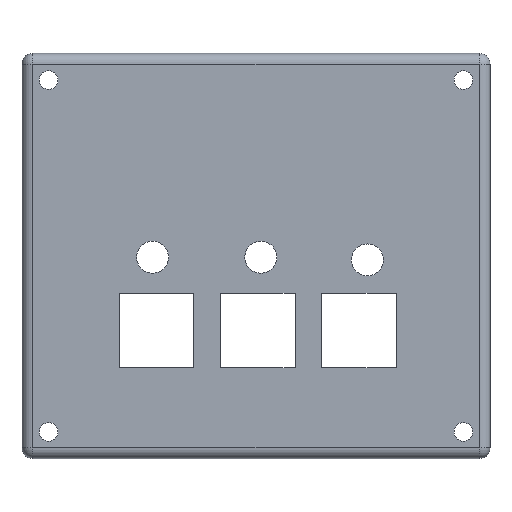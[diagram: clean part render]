
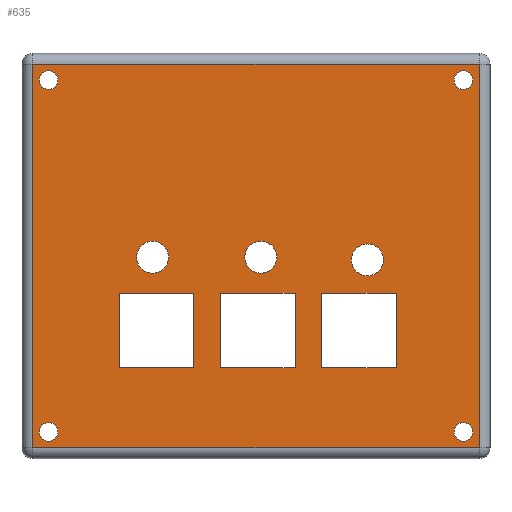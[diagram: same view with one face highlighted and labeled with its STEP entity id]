
A CAD part, front view. The second image highlights one B-rep face of the part: STEP entity #635.
In plain terms, the highlighted planar face has unit normal (0, -1, 0).
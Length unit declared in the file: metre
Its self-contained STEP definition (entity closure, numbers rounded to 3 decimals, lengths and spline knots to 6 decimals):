
#31=CIRCLE('',#686,0.003);
#32=CIRCLE('',#687,0.003);
#33=CIRCLE('',#688,0.003);
#34=CIRCLE('',#689,0.00175);
#35=CIRCLE('',#690,0.00175);
#36=CIRCLE('',#691,0.00175);
#37=CIRCLE('',#692,0.00175);
#61=ORIENTED_EDGE('',*,*,#233,.T.);
#62=ORIENTED_EDGE('',*,*,#234,.T.);
#63=ORIENTED_EDGE('',*,*,#235,.T.);
#64=ORIENTED_EDGE('',*,*,#236,.T.);
#65=ORIENTED_EDGE('',*,*,#237,.T.);
#66=ORIENTED_EDGE('',*,*,#238,.T.);
#67=ORIENTED_EDGE('',*,*,#239,.T.);
#68=ORIENTED_EDGE('',*,*,#240,.F.);
#69=ORIENTED_EDGE('',*,*,#241,.F.);
#70=ORIENTED_EDGE('',*,*,#242,.T.);
#71=ORIENTED_EDGE('',*,*,#243,.T.);
#72=ORIENTED_EDGE('',*,*,#244,.F.);
#73=ORIENTED_EDGE('',*,*,#245,.F.);
#74=ORIENTED_EDGE('',*,*,#246,.T.);
#75=ORIENTED_EDGE('',*,*,#247,.T.);
#76=ORIENTED_EDGE('',*,*,#248,.F.);
#77=ORIENTED_EDGE('',*,*,#249,.F.);
#78=ORIENTED_EDGE('',*,*,#250,.T.);
#79=ORIENTED_EDGE('',*,*,#251,.T.);
#80=ORIENTED_EDGE('',*,*,#252,.T.);
#81=ORIENTED_EDGE('',*,*,#253,.F.);
#82=ORIENTED_EDGE('',*,*,#254,.F.);
#83=ORIENTED_EDGE('',*,*,#255,.T.);
#233=EDGE_CURVE('',#319,#320,#377,.T.);
#234=EDGE_CURVE('',#320,#321,#378,.T.);
#235=EDGE_CURVE('',#321,#322,#379,.F.);
#236=EDGE_CURVE('',#322,#319,#380,.F.);
#237=EDGE_CURVE('',#323,#323,#31,.F.);
#238=EDGE_CURVE('',#324,#324,#32,.F.);
#239=EDGE_CURVE('',#325,#325,#33,.F.);
#240=EDGE_CURVE('',#326,#327,#381,.T.);
#241=EDGE_CURVE('',#328,#326,#382,.T.);
#242=EDGE_CURVE('',#328,#329,#383,.T.);
#243=EDGE_CURVE('',#329,#327,#384,.T.);
#244=EDGE_CURVE('',#330,#331,#385,.T.);
#245=EDGE_CURVE('',#332,#330,#386,.T.);
#246=EDGE_CURVE('',#332,#333,#387,.T.);
#247=EDGE_CURVE('',#333,#331,#388,.T.);
#248=EDGE_CURVE('',#334,#335,#389,.T.);
#249=EDGE_CURVE('',#336,#334,#390,.T.);
#250=EDGE_CURVE('',#336,#337,#391,.T.);
#251=EDGE_CURVE('',#337,#335,#392,.T.);
#252=EDGE_CURVE('',#338,#338,#34,.F.);
#253=EDGE_CURVE('',#339,#339,#35,.T.);
#254=EDGE_CURVE('',#340,#340,#36,.T.);
#255=EDGE_CURVE('',#341,#341,#37,.F.);
#319=VERTEX_POINT('',#947);
#320=VERTEX_POINT('',#948);
#321=VERTEX_POINT('',#950);
#322=VERTEX_POINT('',#952);
#323=VERTEX_POINT('',#955);
#324=VERTEX_POINT('',#957);
#325=VERTEX_POINT('',#959);
#326=VERTEX_POINT('',#961);
#327=VERTEX_POINT('',#962);
#328=VERTEX_POINT('',#964);
#329=VERTEX_POINT('',#966);
#330=VERTEX_POINT('',#969);
#331=VERTEX_POINT('',#970);
#332=VERTEX_POINT('',#972);
#333=VERTEX_POINT('',#974);
#334=VERTEX_POINT('',#977);
#335=VERTEX_POINT('',#978);
#336=VERTEX_POINT('',#980);
#337=VERTEX_POINT('',#982);
#338=VERTEX_POINT('',#985);
#339=VERTEX_POINT('',#987);
#340=VERTEX_POINT('',#989);
#341=VERTEX_POINT('',#991);
#377=LINE('',#946,#433);
#378=LINE('',#949,#434);
#379=LINE('',#951,#435);
#380=LINE('',#953,#436);
#381=LINE('',#960,#437);
#382=LINE('',#963,#438);
#383=LINE('',#965,#439);
#384=LINE('',#967,#440);
#385=LINE('',#968,#441);
#386=LINE('',#971,#442);
#387=LINE('',#973,#443);
#388=LINE('',#975,#444);
#389=LINE('',#976,#445);
#390=LINE('',#979,#446);
#391=LINE('',#981,#447);
#392=LINE('',#983,#448);
#433=VECTOR('',#756,1.);
#434=VECTOR('',#757,1.);
#435=VECTOR('',#758,1.);
#436=VECTOR('',#759,1.);
#437=VECTOR('',#766,1.);
#438=VECTOR('',#767,1.);
#439=VECTOR('',#768,1.);
#440=VECTOR('',#769,1.);
#441=VECTOR('',#770,1.);
#442=VECTOR('',#771,1.);
#443=VECTOR('',#772,1.);
#444=VECTOR('',#773,1.);
#445=VECTOR('',#774,1.);
#446=VECTOR('',#775,1.);
#447=VECTOR('',#776,1.);
#448=VECTOR('',#777,1.);
#489=EDGE_LOOP('',(#61,#62,#63,#64));
#490=EDGE_LOOP('',(#65));
#491=EDGE_LOOP('',(#66));
#492=EDGE_LOOP('',(#67));
#493=EDGE_LOOP('',(#68,#69,#70,#71));
#494=EDGE_LOOP('',(#72,#73,#74,#75));
#495=EDGE_LOOP('',(#76,#77,#78,#79));
#496=EDGE_LOOP('',(#80));
#497=EDGE_LOOP('',(#81));
#498=EDGE_LOOP('',(#82));
#499=EDGE_LOOP('',(#83));
#553=FACE_BOUND('',#489,.T.);
#554=FACE_BOUND('',#490,.T.);
#555=FACE_BOUND('',#491,.T.);
#556=FACE_BOUND('',#492,.T.);
#557=FACE_BOUND('',#493,.T.);
#558=FACE_BOUND('',#494,.T.);
#559=FACE_BOUND('',#495,.T.);
#560=FACE_BOUND('',#496,.T.);
#561=FACE_BOUND('',#497,.T.);
#562=FACE_BOUND('',#498,.T.);
#563=FACE_BOUND('',#499,.T.);
#617=PLANE('',#685);
#635=ADVANCED_FACE('',(#553,#554,#555,#556,#557,#558,#559,#560,#561,#562,#563),#617,.T.);
#685=AXIS2_PLACEMENT_3D('',#945,#754,#755);
#686=AXIS2_PLACEMENT_3D('',#954,#760,#761);
#687=AXIS2_PLACEMENT_3D('',#956,#762,#763);
#688=AXIS2_PLACEMENT_3D('',#958,#764,#765);
#689=AXIS2_PLACEMENT_3D('',#984,#778,#779);
#690=AXIS2_PLACEMENT_3D('',#986,#780,#781);
#691=AXIS2_PLACEMENT_3D('',#988,#782,#783);
#692=AXIS2_PLACEMENT_3D('',#990,#784,#785);
#754=DIRECTION('',(0.,-1.,0.));
#755=DIRECTION('',(1.,0.,0.));
#756=DIRECTION('',(0.,0.,1.));
#757=DIRECTION('',(-1.,0.,0.));
#758=DIRECTION('',(0.,0.,1.));
#759=DIRECTION('',(-1.,0.,0.));
#760=DIRECTION('',(0.,-1.,0.));
#761=DIRECTION('',(0.,0.,-1.));
#762=DIRECTION('',(0.,-1.,0.));
#763=DIRECTION('',(0.,0.,-1.));
#764=DIRECTION('',(0.,-1.,0.));
#765=DIRECTION('',(0.,0.,-1.));
#766=DIRECTION('',(1.,0.,0.));
#767=DIRECTION('',(0.,0.,-1.));
#768=DIRECTION('',(1.,0.,0.));
#769=DIRECTION('',(0.,0.,-1.));
#770=DIRECTION('',(1.,0.,0.));
#771=DIRECTION('',(0.,0.,-1.));
#772=DIRECTION('',(1.,0.,0.));
#773=DIRECTION('',(0.,0.,-1.));
#774=DIRECTION('',(1.,0.,0.));
#775=DIRECTION('',(0.,0.,-1.));
#776=DIRECTION('',(1.,0.,0.));
#777=DIRECTION('',(0.,0.,-1.));
#778=DIRECTION('',(0.,-1.,0.));
#779=DIRECTION('',(0.,0.,-1.));
#780=DIRECTION('',(0.,-1.,0.));
#781=DIRECTION('',(0.,0.,-1.));
#782=DIRECTION('',(0.,-1.,0.));
#783=DIRECTION('',(0.,0.,-1.));
#784=DIRECTION('',(0.,-1.,0.));
#785=DIRECTION('',(0.,0.,-1.));
#945=CARTESIAN_POINT('',(0.,-0.005,0.));
#946=CARTESIAN_POINT('',(0.0419,-0.005,0.038));
#947=CARTESIAN_POINT('',(0.0419,-0.005,-0.036));
#948=CARTESIAN_POINT('',(0.0419,-0.005,0.036));
#949=CARTESIAN_POINT('',(-0.0439,-0.005,0.036));
#950=CARTESIAN_POINT('',(-0.0419,-0.005,0.036));
#951=CARTESIAN_POINT('',(-0.0419,-0.005,0.));
#952=CARTESIAN_POINT('',(-0.0419,-0.005,-0.036));
#953=CARTESIAN_POINT('',(0.,-0.005,-0.036));
#954=CARTESIAN_POINT('',(0.0209,-0.005,-0.00073));
#955=CARTESIAN_POINT('',(0.0209,-0.005,-0.00373));
#956=CARTESIAN_POINT('',(-0.0194,-0.005,-0.00023));
#957=CARTESIAN_POINT('',(-0.0194,-0.005,-0.00323));
#958=CARTESIAN_POINT('',(0.0009,-0.005,-0.00023));
#959=CARTESIAN_POINT('',(0.0009,-0.005,-0.00323));
#960=CARTESIAN_POINT('',(0.,-0.005,-0.021));
#961=CARTESIAN_POINT('',(0.01233,-0.005,-0.021));
#962=CARTESIAN_POINT('',(0.0263,-0.005,-0.021));
#963=CARTESIAN_POINT('',(0.01233,-0.005,0.));
#964=CARTESIAN_POINT('',(0.01233,-0.005,-0.00703));
#965=CARTESIAN_POINT('',(0.,-0.005,-0.00703));
#966=CARTESIAN_POINT('',(0.0263,-0.005,-0.00703));
#967=CARTESIAN_POINT('',(0.0263,-0.005,0.));
#968=CARTESIAN_POINT('',(0.,-0.005,-0.021));
#969=CARTESIAN_POINT('',(-0.00664,-0.005,-0.021));
#970=CARTESIAN_POINT('',(0.00733,-0.005,-0.021));
#971=CARTESIAN_POINT('',(-0.00664,-0.005,0.));
#972=CARTESIAN_POINT('',(-0.00664,-0.005,-0.00703));
#973=CARTESIAN_POINT('',(0.,-0.005,-0.00703));
#974=CARTESIAN_POINT('',(0.00733,-0.005,-0.00703));
#975=CARTESIAN_POINT('',(0.00733,-0.005,0.));
#976=CARTESIAN_POINT('',(0.,-0.005,-0.021));
#977=CARTESIAN_POINT('',(-0.02561,-0.005,-0.021));
#978=CARTESIAN_POINT('',(-0.01164,-0.005,-0.021));
#979=CARTESIAN_POINT('',(-0.02561,-0.005,0.));
#980=CARTESIAN_POINT('',(-0.02561,-0.005,-0.00703));
#981=CARTESIAN_POINT('',(0.,-0.005,-0.00703));
#982=CARTESIAN_POINT('',(-0.01164,-0.005,-0.00703));
#983=CARTESIAN_POINT('',(-0.01164,-0.005,0.));
#984=CARTESIAN_POINT('',(-0.0389,-0.005,0.033));
#985=CARTESIAN_POINT('',(-0.0389,-0.005,0.03125));
#986=CARTESIAN_POINT('',(-0.0389,-0.005,-0.033));
#987=CARTESIAN_POINT('',(-0.0389,-0.005,-0.03475));
#988=CARTESIAN_POINT('',(0.0389,-0.005,0.033));
#989=CARTESIAN_POINT('',(0.0389,-0.005,0.03125));
#990=CARTESIAN_POINT('',(0.0389,-0.005,-0.033));
#991=CARTESIAN_POINT('',(0.0389,-0.005,-0.03475));
